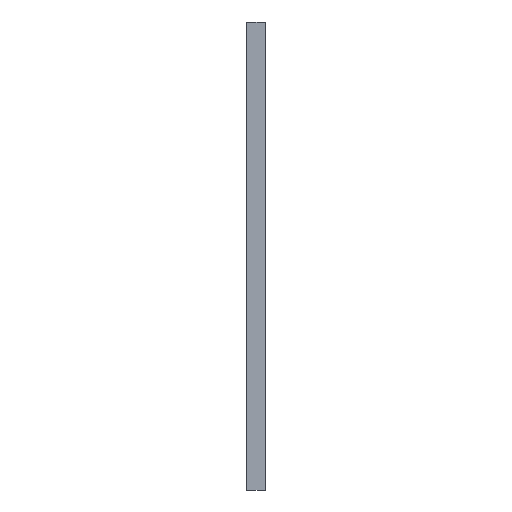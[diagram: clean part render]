
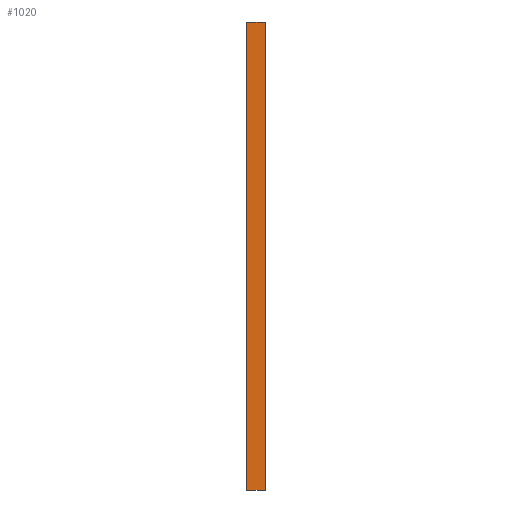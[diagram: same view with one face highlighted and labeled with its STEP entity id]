
A CAD part, left-side view. The second image highlights one B-rep face of the part: STEP entity #1020.
In plain terms, the highlighted planar face has unit normal (-1, 0, 0).
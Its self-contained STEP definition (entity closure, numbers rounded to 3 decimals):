
#149 = DIRECTION ( 'NONE',  ( 1., 0., 0. ) ) ;
#177 = CARTESIAN_POINT ( 'NONE',  ( -40., -1., 50. ) ) ;
#194 = EDGE_CURVE ( 'NONE', #513, #1319, #1351, .T. ) ;
#265 = EDGE_CURVE ( 'NONE', #936, #1319, #733, .T. ) ;
#288 = LINE ( 'NONE', #1056, #788 ) ;
#308 = ORIENTED_EDGE ( 'NONE', *, *, #871, .T. ) ;
#386 = LINE ( 'NONE', #177, #1498 ) ;
#390 = DIRECTION ( 'NONE',  ( 0., 0., -1. ) ) ;
#412 = DIRECTION ( 'NONE',  ( 0., -1., 0. ) ) ;
#513 = VERTEX_POINT ( 'NONE', #1534 ) ;
#515 = EDGE_LOOP ( 'NONE', ( #657, #615, #1487, #308 ) ) ;
#615 = ORIENTED_EDGE ( 'NONE', *, *, #194, .F. ) ;
#657 = ORIENTED_EDGE ( 'NONE', *, *, #265, .T. ) ;
#704 = AXIS2_PLACEMENT_3D ( 'NONE', #956, #149, #1105 ) ;
#733 = LINE ( 'NONE', #1221, #1456 ) ;
#788 = VECTOR ( 'NONE', #390, 1000. ) ;
#871 = EDGE_CURVE ( 'NONE', #1650, #936, #288, .T. ) ;
#932 = CARTESIAN_POINT ( 'NONE',  ( -40., 1., 50. ) ) ;
#936 = VERTEX_POINT ( 'NONE', #1467 ) ;
#956 = CARTESIAN_POINT ( 'NONE',  ( -40., -1., 50. ) ) ;
#990 = VECTOR ( 'NONE', #1348, 1000. ) ;
#1020 = ADVANCED_FACE ( 'NONE', ( #1089 ), #1240, .F. ) ;
#1056 = CARTESIAN_POINT ( 'NONE',  ( -40., 1., 50. ) ) ;
#1089 = FACE_OUTER_BOUND ( 'NONE', #515, .T. ) ;
#1105 = DIRECTION ( 'NONE',  ( 0., 0., -1. ) ) ;
#1148 = EDGE_CURVE ( 'NONE', #1650, #513, #386, .T. ) ;
#1221 = CARTESIAN_POINT ( 'NONE',  ( -40., -1., 0. ) ) ;
#1240 = PLANE ( 'NONE',  #704 ) ;
#1319 = VERTEX_POINT ( 'NONE', #1429 ) ;
#1348 = DIRECTION ( 'NONE',  ( 0., 0., -1. ) ) ;
#1351 = LINE ( 'NONE', #1470, #990 ) ;
#1429 = CARTESIAN_POINT ( 'NONE',  ( -40., -1., 0. ) ) ;
#1456 = VECTOR ( 'NONE', #412, 1000. ) ;
#1467 = CARTESIAN_POINT ( 'NONE',  ( -40., 1., 0. ) ) ;
#1470 = CARTESIAN_POINT ( 'NONE',  ( -40., -1., 50. ) ) ;
#1487 = ORIENTED_EDGE ( 'NONE', *, *, #1148, .F. ) ;
#1498 = VECTOR ( 'NONE', #1547, 1000. ) ;
#1534 = CARTESIAN_POINT ( 'NONE',  ( -40., -1., 50. ) ) ;
#1547 = DIRECTION ( 'NONE',  ( 0., -1., 0. ) ) ;
#1650 = VERTEX_POINT ( 'NONE', #932 ) ;
